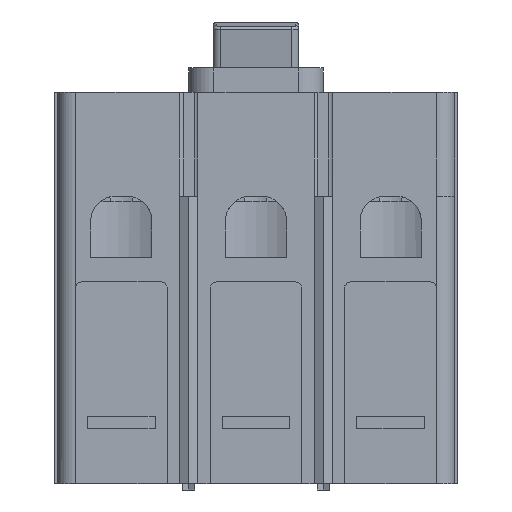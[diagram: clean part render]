
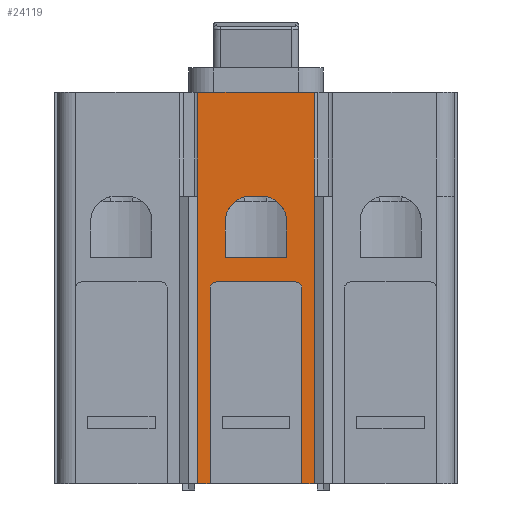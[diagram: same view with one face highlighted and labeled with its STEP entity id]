
A CAD part, front view. The second image highlights one B-rep face of the part: STEP entity #24119.
In plain terms, the highlighted planar face has unit normal (0, -1, 0).
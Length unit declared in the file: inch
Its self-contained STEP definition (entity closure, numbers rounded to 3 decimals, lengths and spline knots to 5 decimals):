
#2868=CARTESIAN_POINT('',(-3.7495,-22.9187,-6.677));
#2869=VERTEX_POINT('',#2868);
#2876=CARTESIAN_POINT('',(-3.9995,-22.9187,-6.427));
#2877=VERTEX_POINT('',#2876);
#2878=CARTESIAN_POINT('',(-3.9995,-22.9187,-6.677));
#2879=DIRECTION('',(0.0,1.0,0.0));
#2880=DIRECTION('',(1.0,0.0,0.0));
#2881=AXIS2_PLACEMENT_3D('',#2878,#2879,#2880);
#2882=CIRCLE('',#2881,0.25);
#2883=EDGE_CURVE('',#2877,#2869,#2882,.T.);
#2990=CARTESIAN_POINT('',(-3.7495,-22.9187,-7.052));
#2991=VERTEX_POINT('',#2990);
#2998=CARTESIAN_POINT('',(-3.7495,-22.9187,-6.677));
#2999=DIRECTION('',(0.0,0.0,-1.0));
#3000=VECTOR('',#2999,0.375);
#3001=LINE('',#2998,#3000);
#3002=EDGE_CURVE('',#2869,#2991,#3001,.T.);
#3098=CARTESIAN_POINT('',(-4.1245,-22.9187,-6.427));
#3099=VERTEX_POINT('',#3098);
#3106=CARTESIAN_POINT('',(-4.3745,-22.9187,-6.677));
#3107=VERTEX_POINT('',#3106);
#3108=CARTESIAN_POINT('',(-4.1245,-22.9187,-6.677));
#3109=DIRECTION('',(0.0,1.0,0.0));
#3110=DIRECTION('',(0.0,0.0,1.0));
#3111=AXIS2_PLACEMENT_3D('',#3108,#3109,#3110);
#3112=CIRCLE('',#3111,0.25);
#3113=EDGE_CURVE('',#3107,#3099,#3112,.T.);
#3143=CARTESIAN_POINT('',(-4.3745,-22.9187,-7.052));
#3144=VERTEX_POINT('',#3143);
#3145=CARTESIAN_POINT('',(-4.3745,-22.9187,-7.052));
#3146=DIRECTION('',(0.0,0.0,1.0));
#3147=VECTOR('',#3146,0.375);
#3148=LINE('',#3145,#3147);
#3149=EDGE_CURVE('',#3144,#3107,#3148,.T.);
#3269=CARTESIAN_POINT('',(-3.7495,-22.9187,-7.052));
#3270=DIRECTION('',(-1.0,0.0,0.0));
#3271=VECTOR('',#3270,0.625);
#3272=LINE('',#3269,#3271);
#3273=EDGE_CURVE('',#2991,#3144,#3272,.T.);
#10757=CARTESIAN_POINT('',(-3.469,-22.9187,-6.427));
#10758=VERTEX_POINT('',#10757);
#10767=CARTESIAN_POINT('',(-3.4685,-22.9187,-6.427));
#10768=VERTEX_POINT('',#10767);
#10775=CARTESIAN_POINT('',(-3.4685,-22.9187,-6.427));
#10776=DIRECTION('',(-1.0,0.0,0.0));
#10777=VECTOR('',#10776,0.0005);
#10778=LINE('',#10775,#10777);
#10779=EDGE_CURVE('',#10768,#10758,#10778,.T.);
#10797=CARTESIAN_POINT('',(-4.1245,-22.9187,-6.427));
#10798=DIRECTION('',(1.0,0.0,0.0));
#10799=VECTOR('',#10798,0.125);
#10800=LINE('',#10797,#10799);
#10801=EDGE_CURVE('',#3099,#2877,#10800,.T.);
#10901=CARTESIAN_POINT('',(-4.6555,-22.9187,-6.427));
#10902=VERTEX_POINT('',#10901);
#10911=CARTESIAN_POINT('',(-4.6555,-22.9187,-5.365));
#10912=VERTEX_POINT('',#10911);
#10913=CARTESIAN_POINT('',(-4.6555,-22.9187,-6.427));
#10914=DIRECTION('',(0.0,0.0,1.0));
#10915=VECTOR('',#10914,1.062);
#10916=LINE('',#10913,#10915);
#10917=EDGE_CURVE('',#10902,#10912,#10916,.T.);
#11375=CARTESIAN_POINT('',(-3.4685,-22.9187,-5.365));
#11376=VERTEX_POINT('',#11375);
#11377=CARTESIAN_POINT('',(-3.4685,-22.9187,-5.365));
#11378=DIRECTION('',(-1.0,0.0,0.0));
#11379=VECTOR('',#11378,1.187);
#11380=LINE('',#11377,#11379);
#11381=EDGE_CURVE('',#11376,#10912,#11380,.T.);
#16493=CARTESIAN_POINT('',(-3.4685,-22.9187,-6.427));
#16494=DIRECTION('',(0.0,0.0,1.0));
#16495=VECTOR('',#16494,1.062);
#16496=LINE('',#16493,#16495);
#16497=EDGE_CURVE('',#10768,#11376,#16496,.T.);
#18167=CARTESIAN_POINT('',(-4.656,-22.9187,-6.427));
#18168=VERTEX_POINT('',#18167);
#18175=CARTESIAN_POINT('',(-4.6555,-22.9187,-6.427));
#18176=DIRECTION('',(-1.0,0.0,0.0));
#18177=VECTOR('',#18176,0.0005);
#18178=LINE('',#18175,#18177);
#18179=EDGE_CURVE('',#10902,#18168,#18178,.T.);
#19164=CARTESIAN_POINT('',(-3.469,-22.9187,-9.365));
#19165=VERTEX_POINT('',#19164);
#19172=CARTESIAN_POINT('',(-3.594,-22.9187,-9.365));
#19173=VERTEX_POINT('',#19172);
#19174=CARTESIAN_POINT('',(-3.469,-22.9187,-9.365));
#19175=DIRECTION('',(-1.0,0.0,0.0));
#19176=VECTOR('',#19175,0.125);
#19177=LINE('',#19174,#19176);
#19178=EDGE_CURVE('',#19165,#19173,#19177,.T.);
#19196=CARTESIAN_POINT('',(-4.532,-22.9187,-9.365));
#19197=VERTEX_POINT('',#19196);
#19204=CARTESIAN_POINT('',(-4.656,-22.9187,-9.365));
#19205=VERTEX_POINT('',#19204);
#19206=CARTESIAN_POINT('',(-4.532,-22.9187,-9.365));
#19207=DIRECTION('',(-1.0,0.0,0.0));
#19208=VECTOR('',#19207,0.124);
#19209=LINE('',#19206,#19208);
#19210=EDGE_CURVE('',#19197,#19205,#19209,.T.);
#23958=CARTESIAN_POINT('',(-3.656,-22.9187,-7.302));
#23959=VERTEX_POINT('',#23958);
#23966=CARTESIAN_POINT('',(-4.47,-22.9187,-7.302));
#23967=VERTEX_POINT('',#23966);
#23968=CARTESIAN_POINT('',(-3.656,-22.9187,-7.302));
#23969=DIRECTION('',(-1.0,0.0,0.0));
#23970=VECTOR('',#23969,0.814);
#23971=LINE('',#23968,#23970);
#23972=EDGE_CURVE('',#23959,#23967,#23971,.T.);
#23991=CARTESIAN_POINT('',(-4.532,-22.9187,-7.364));
#23992=VERTEX_POINT('',#23991);
#23993=CARTESIAN_POINT('',(-4.47,-22.9187,-7.364));
#23994=DIRECTION('',(0.0,-1.0,0.0));
#23995=DIRECTION('',(0.0,0.0,1.0));
#23996=AXIS2_PLACEMENT_3D('',#23993,#23994,#23995);
#23997=CIRCLE('',#23996,0.062);
#23998=EDGE_CURVE('',#23967,#23992,#23997,.T.);
#24062=CARTESIAN_POINT('',(-2.,-22.9187,-6.427));
#24063=DIRECTION('',(0.0,-1.0,0.0));
#24064=DIRECTION('',(0.0,0.0,-1.0));
#24065=AXIS2_PLACEMENT_3D('',#24062,#24063,#24064);
#24066=PLANE('',#24065);
#24067=CARTESIAN_POINT('',(-3.594,-22.9187,-7.364));
#24068=VERTEX_POINT('',#24067);
#24069=CARTESIAN_POINT('',(-3.594,-22.9187,-9.365));
#24070=DIRECTION('',(0.0,0.0,1.0));
#24071=VECTOR('',#24070,2.001);
#24072=LINE('',#24069,#24071);
#24073=EDGE_CURVE('',#19173,#24068,#24072,.T.);
#24074=ORIENTED_EDGE('',*,*,#24073,.F.);
#24075=ORIENTED_EDGE('',*,*,#19178,.F.);
#24076=CARTESIAN_POINT('',(-3.469,-22.9187,-6.427));
#24077=DIRECTION('',(0.0,0.0,-1.0));
#24078=VECTOR('',#24077,2.938);
#24079=LINE('',#24076,#24078);
#24080=EDGE_CURVE('',#10758,#19165,#24079,.T.);
#24081=ORIENTED_EDGE('',*,*,#24080,.F.);
#24082=ORIENTED_EDGE('',*,*,#10779,.F.);
#24083=ORIENTED_EDGE('',*,*,#16497,.T.);
#24084=ORIENTED_EDGE('',*,*,#11381,.T.);
#24085=ORIENTED_EDGE('',*,*,#10917,.F.);
#24086=ORIENTED_EDGE('',*,*,#18179,.T.);
#24087=CARTESIAN_POINT('',(-4.656,-22.9187,-6.427));
#24088=DIRECTION('',(0.0,0.0,-1.0));
#24089=VECTOR('',#24088,2.938);
#24090=LINE('',#24087,#24089);
#24091=EDGE_CURVE('',#18168,#19205,#24090,.T.);
#24092=ORIENTED_EDGE('',*,*,#24091,.T.);
#24093=ORIENTED_EDGE('',*,*,#19210,.F.);
#24094=CARTESIAN_POINT('',(-4.532,-22.9187,-9.365));
#24095=DIRECTION('',(0.0,0.0,1.0));
#24096=VECTOR('',#24095,2.001);
#24097=LINE('',#24094,#24096);
#24098=EDGE_CURVE('',#19197,#23992,#24097,.T.);
#24099=ORIENTED_EDGE('',*,*,#24098,.T.);
#24100=ORIENTED_EDGE('',*,*,#23998,.F.);
#24101=ORIENTED_EDGE('',*,*,#23972,.F.);
#24102=CARTESIAN_POINT('',(-3.656,-22.9187,-7.364));
#24103=DIRECTION('',(0.0,-1.0,0.0));
#24104=DIRECTION('',(1.0,0.0,0.0));
#24105=AXIS2_PLACEMENT_3D('',#24102,#24103,#24104);
#24106=CIRCLE('',#24105,0.062);
#24107=EDGE_CURVE('',#24068,#23959,#24106,.T.);
#24108=ORIENTED_EDGE('',*,*,#24107,.F.);
#24109=EDGE_LOOP('',(#24074,#24075,#24081,#24082,#24083,#24084,#24085,#24086,#24092,#24093,#24099,#24100,#24101,#24108));
#24110=FACE_OUTER_BOUND('',#24109,.T.);
#24111=ORIENTED_EDGE('',*,*,#3002,.T.);
#24112=ORIENTED_EDGE('',*,*,#3273,.T.);
#24113=ORIENTED_EDGE('',*,*,#3149,.T.);
#24114=ORIENTED_EDGE('',*,*,#3113,.T.);
#24115=ORIENTED_EDGE('',*,*,#10801,.T.);
#24116=ORIENTED_EDGE('',*,*,#2883,.T.);
#24117=EDGE_LOOP('',(#24111,#24112,#24113,#24114,#24115,#24116));
#24118=FACE_BOUND('',#24117,.T.);
#24119=ADVANCED_FACE('',(#24110,#24118),#24066,.T.);
